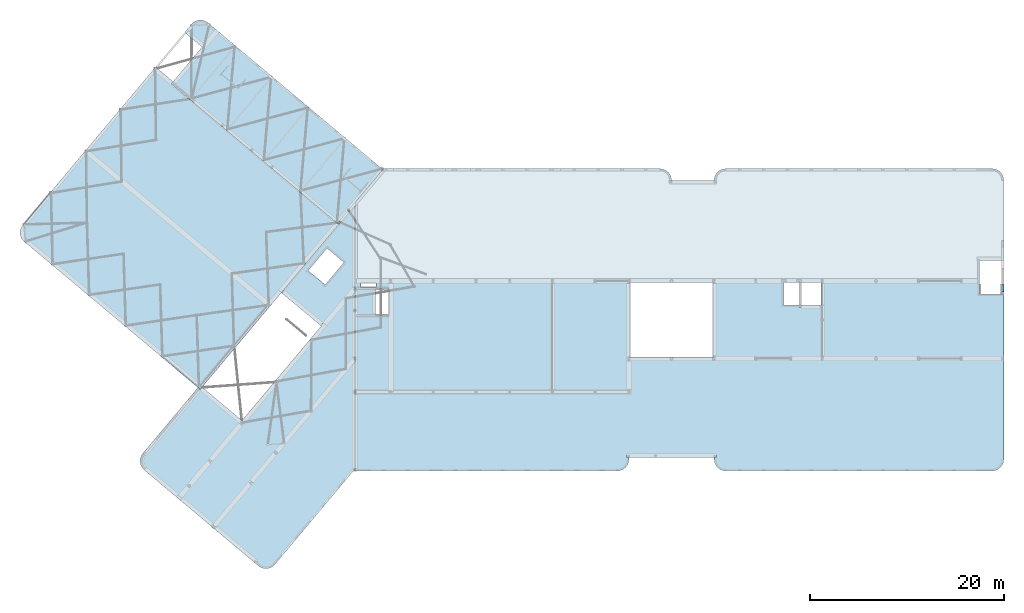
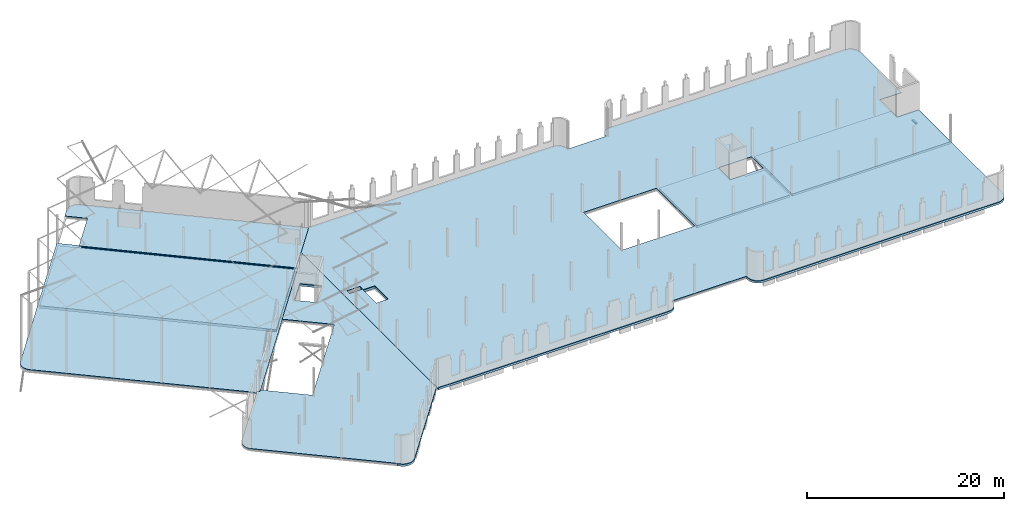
# One storey, part 21 of 25: 15 slabs, 1 beam, 7 openings.
"""IFC2X3 building model written with IfcOpenShell, lengths in millimetres."""

import ifcopenshell
import ifcopenshell.guid

model = None  # the IFC model being written
_history = None  # IfcOwnerHistory: only IFC2X3 demands one
_inside = {}  # id of a spatial element -> (the spatial element, [elements in it])
_under = {}  # id of a project, library or spatial element -> (it, [spatial elements below it])
_declared = {}  # id of a project -> (the project, [libraries it declares])
_typed = {}  # id of a type object -> (the type object, [elements of that type])
_made_of = {}  # id of a material, layer set ... -> (it, [elements and type objects made of it])


def new_model(schema):
    """Start an empty IFC model of exactly this schema.

    Asked for "IFC4X3", IfcOpenShell would pick the latest addendum, in which some entities
    have other attributes; the version numbers below select the first issue.
    IFC2X3 requires an IfcOwnerHistory on every rooted entity: one is made here for all.
    """
    global model, _history
    if schema == "IFC4X3":
        model = ifcopenshell.file(schema_version=(4, 3, 0, 0))
    else:
        model = ifcopenshell.file(schema=schema)
    _inside.clear()
    _under.clear()
    _declared.clear()
    _typed.clear()
    _made_of.clear()
    _history = None
    if model.schema == "IFC2X3":
        org = make("IfcOrganization", Name="unknown")
        user = make(
            "IfcPersonAndOrganization",
            ThePerson=make("IfcPerson", FamilyName="unknown"),
            TheOrganization=org,
        )
        app = make(
            "IfcApplication",
            ApplicationDeveloper=org,
            Version="unknown",
            ApplicationFullName="unknown",
            ApplicationIdentifier="unknown",
        )
        _history = make(
            "IfcOwnerHistory",
            OwningUser=user,
            OwningApplication=app,
            ChangeAction="ADDED",
            CreationDate=0,
        )
    return model


def make(cls, **values):
    """One entity of the class cls with the attributes given. An attribute that is None is left unset."""
    return model.create_entity(
        cls, **{name: value for name, value in values.items() if value is not None}
    )


def entity(cls, *values):
    """Any entity or typed value of the class cls, its attributes in the order of the schema. None: left unset."""
    e = model.create_entity(cls)
    for i, value in enumerate(values):
        if value is not None:
            e[i] = value
    return e


def rooted(cls, **values):
    """An entity with a GlobalId (a new one), such as an element, a storey or a relation."""
    return make(cls, GlobalId=ifcopenshell.guid.new(), OwnerHistory=_history, **values)


def si_unit(unit_type, name, prefix=None):
    """IfcSIUnit, for example si_unit("LENGTHUNIT", "METRE", prefix="MILLI")."""
    return make("IfcSIUnit", UnitType=unit_type, Prefix=prefix, Name=name)


def converted_unit(unit_type, name, factor, base, dimensions=None, offset=None):
    """IfcConversionBasedUnit, such as the inch: factor (a typed value) times the base unit."""
    return make(
        "IfcConversionBasedUnit"
        if offset is None
        else "IfcConversionBasedUnitWithOffset",
        ConversionOffset=offset,
        Dimensions=None
        if dimensions is None
        else entity("IfcDimensionalExponents", *dimensions),
        UnitType=unit_type,
        Name=name,
        ConversionFactor=make(
            "IfcMeasureWithUnit", ValueComponent=factor, UnitComponent=base
        ),
    )


def derived_unit(unit_type, elements):
    """IfcDerivedUnit: a product of units, each with its exponent."""
    return make(
        "IfcDerivedUnit",
        Elements=[
            make("IfcDerivedUnitElement", Unit=unit, Exponent=power)
            for unit, power in elements
        ],
        UnitType=unit_type,
    )


def assignment(units):
    """IfcUnitAssignment: the units of a project."""
    return None if units is None else make("IfcUnitAssignment", Units=units)


def point(xyz):
    """IfcCartesianPoint."""
    return None if xyz is None else make("IfcCartesianPoint", Coordinates=xyz)


def direction(xyz):
    """IfcDirection."""
    return None if xyz is None else make("IfcDirection", DirectionRatios=xyz)


def frame(location, z_axis=None, x_axis=None):
    """IfcAxis2Placement3D, a coordinate frame: its origin and axes. An axis left out is left unset."""
    return make(
        "IfcAxis2Placement3D",
        Location=point(location),
        Axis=direction(z_axis),
        RefDirection=direction(x_axis),
    )


def frame_2d(location, x_axis=None):
    """IfcAxis2Placement2D, a coordinate frame in the plane: its origin and x axis."""
    return make(
        "IfcAxis2Placement2D", Location=point(location), RefDirection=direction(x_axis)
    )


def origin():
    """The frame at (0, 0, 0) with its axes left unset."""
    return frame((0.0, 0.0, 0.0))


def origin_2d_with_axis():
    """The frame at (0, 0) in the plane with the x axis (1, 0) written out."""
    return frame_2d((0.0, 0.0), x_axis=(1.0, 0.0))


def place(relative_to, where):
    """IfcLocalPlacement: puts the frame where relative to a parent placement (None: the world)."""
    return make(
        "IfcLocalPlacement", PlacementRelTo=relative_to, RelativePlacement=where
    )


def context(
    kind, dimensions, precision=None, world=None, true_north=None, identifier=None
):
    """IfcGeometricRepresentationContext, for example the 3D "Model" context."""
    return make(
        "IfcGeometricRepresentationContext",
        ContextIdentifier=identifier,
        ContextType=kind,
        CoordinateSpaceDimension=dimensions,
        Precision=precision,
        WorldCoordinateSystem=world,
        TrueNorth=true_north,
    )


def subcontext(parent, identifier, kind, view, scale=None):
    """IfcGeometricRepresentationSubContext, for example "Body" below "Model"."""
    return make(
        "IfcGeometricRepresentationSubContext",
        ContextIdentifier=identifier,
        ContextType=kind,
        ParentContext=parent,
        TargetScale=scale,
        TargetView=view,
    )


def project(units=None, contexts=None):
    """IfcProject with its units and contexts."""
    return rooted(
        "IfcProject",
        Name="project",
        RepresentationContexts=contexts,
        UnitsInContext=assignment(units),
    )


def spatial(cls, under=None, at=None, **own):
    """A site, building, storey or space (cls), placed at a placement, below another one or the project."""
    s = rooted(cls, ObjectPlacement=at, **own)
    if under is not None:
        _under.setdefault(under.id(), (under, []))[1].append(s)
    return s


def polyline(points):
    """IfcPolyline through the points."""
    return make("IfcPolyline", Points=[point(p) for p in points])


def circle_curve(where, radius):
    """IfcCircle in the frame where."""
    return make("IfcCircle", Position=where, Radius=radius)


def parameter(value):
    """IfcParameterValue: where a trimmed curve begins or ends, as a parameter of its basis curve."""
    return model.create_entity("IfcParameterValue", value)


def trimmed(basis, trim1, trim2, sense, master):
    """IfcTrimmedCurve: the piece of a basis curve between two trims."""
    return make(
        "IfcTrimmedCurve",
        BasisCurve=basis,
        Trim1=trim1,
        Trim2=trim2,
        SenseAgreement=sense,
        MasterRepresentation=master,
    )


def segment(curve, same_sense, transition):
    """IfcCompositeCurveSegment."""
    return make(
        "IfcCompositeCurveSegment",
        Transition=transition,
        SameSense=same_sense,
        ParentCurve=curve,
    )


def composite_curve(segments, self_intersect=None):
    """IfcCompositeCurve: segments joined end to end."""
    return make("IfcCompositeCurve", Segments=segments, SelfIntersect=self_intersect)


def profile(cls, at=None, kind="AREA", **sizes):
    """A parametric profile (cls). Its sizes go by their IFC names, for example OverallWidth=200.0."""
    return make(cls, ProfileType=kind, Position=at, **sizes)


def rectangle(**sizes):
    """IfcRectangleProfileDef."""
    return profile("IfcRectangleProfileDef", **sizes)


def outline(outer, holes=None, kind="AREA"):
    """IfcArbitraryClosedProfileDef: a profile drawn as a closed curve; with holes, ...WithVoids."""
    if holes is None:
        return make("IfcArbitraryClosedProfileDef", ProfileType=kind, OuterCurve=outer)
    return make(
        "IfcArbitraryProfileDefWithVoids",
        ProfileType=kind,
        OuterCurve=outer,
        InnerCurves=holes,
    )


def extrude(swept, where, along, depth):
    """IfcExtrudedAreaSolid: the profile swept, set in the frame where, extruded along a direction by depth."""
    return make(
        "IfcExtrudedAreaSolid",
        SweptArea=swept,
        Position=where,
        ExtrudedDirection=direction(along),
        Depth=depth,
    )


def boolean(op, a, b):
    """IfcBooleanResult of two solids."""
    return make("IfcBooleanResult", Operator=op, FirstOperand=a, SecondOperand=b)


def shape(context_of_items, identifier, shape_type, items):
    """IfcShapeRepresentation: the items that make up one representation, for example the "Body"."""
    return make(
        "IfcShapeRepresentation",
        ContextOfItems=context_of_items,
        RepresentationIdentifier=identifier,
        RepresentationType=shape_type,
        Items=items,
    )


def material(Name=None, Category=None):
    """IfcMaterial."""
    return make("IfcMaterial", Name=Name, Category=Category)


def layer(
    of_material, thickness, ventilated=None, Name=None, Category=None, Priority=None
):
    """IfcMaterialLayer: one layer of a wall or slab, of a material (None: an air gap)."""
    return make(
        "IfcMaterialLayer",
        Material=of_material,
        LayerThickness=thickness,
        IsVentilated=ventilated,
        Name=Name,
        Category=Category,
        Priority=Priority,
    )


def layer_set(layers, Name=None):
    """IfcMaterialLayerSet."""
    return make("IfcMaterialLayerSet", MaterialLayers=layers, LayerSetName=Name)


def layer_usage(for_layer_set, set_direction, sense, offset, extent=None):
    """IfcMaterialLayerSetUsage: how a layer set lies in its element."""
    return make(
        "IfcMaterialLayerSetUsage",
        ForLayerSet=for_layer_set,
        LayerSetDirection=set_direction,
        DirectionSense=sense,
        OffsetFromReferenceLine=offset,
        ReferenceExtent=extent,
    )


def made_of(thing, what):
    """Note that an element or type object is made of a material, layer set ...; save() writes the relation."""
    if what is not None:
        _made_of.setdefault(what.id(), (what, []))[1].append(thing)
    return thing


def type_object(cls, material=None, **own):
    """A type object (cls), such as IfcWallType, which elements share."""
    return made_of(rooted(cls, **own), material)


def element(
    cls,
    number,
    at=None,
    inside=None,
    cuts=None,
    type_object=None,
    material=None,
    context=None,
    identifier="Body",
    shape_type=None,
    held_by="IfcProductDefinitionShape",
    body=None,
    shapes=None,
    **own,
):
    """One element of the class cls, such as IfcWall. Its Tag is "e" and its number.

    at: its placement. inside: the storey or other place that contains it. cuts: it is an
    opening in that element (IfcRelVoidsElement). A single representation is given by context,
    identifier, shape_type and body (its items); several are given by shapes. held_by: the class
    of the entity that holds the representations. save() writes the other relations.
    """
    e = rooted(cls, Tag="e%d" % number, ObjectPlacement=at, **own)
    if body is not None:
        shapes = [shape(context, identifier, shape_type, body)]
    if shapes is not None:
        e.Representation = make(held_by, Representations=shapes)
    if inside is not None:
        _inside.setdefault(inside.id(), (inside, []))[1].append(e)
    if cuts is not None:
        rooted(
            "IfcRelVoidsElement", RelatingBuildingElement=cuts, RelatedOpeningElement=e
        )
    if type_object is not None:
        _typed.setdefault(type_object.id(), (type_object, []))[1].append(e)
    return made_of(e, material)


def aggregate(whole, parts):
    """IfcRelAggregates: a whole, such as a stair, and the parts it consists of."""
    return rooted("IfcRelAggregates", RelatingObject=whole, RelatedObjects=parts)


def save(model, path):
    """Write the relations noted so far, then the file.

    IfcRelAggregates (storeys below a building ...), IfcRelContainedInSpatialStructure (elements
    in a storey), IfcRelDefinesByType, IfcRelAssociatesMaterial and IfcRelDeclares: one each for
    every whole, place, type object, material and project.
    """
    for whole, parts in _under.values():
        aggregate(whole, parts)
    for where, things in _inside.values():
        rooted(
            "IfcRelContainedInSpatialStructure",
            RelatedElements=things,
            RelatingStructure=where,
        )
    for kind, things in _typed.values():
        rooted("IfcRelDefinesByType", RelatedObjects=things, RelatingType=kind)
    for what, things in _made_of.values():
        rooted("IfcRelAssociatesMaterial", RelatedObjects=things, RelatingMaterial=what)
    for by, libraries in _declared.values():
        rooted("IfcRelDeclares", RelatingContext=by, RelatedDefinitions=libraries)
    model.write(path)


model = new_model("IFC2X3")

# Units and contexts
model_context = context("Model", 3, precision=0.01, world=origin(), true_north=direction((6.123031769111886e-17, 1.0)))
body_context = subcontext(model_context, "Body", "Model", "MODEL_VIEW")
ifc_project = project(units=[si_unit("LENGTHUNIT", "METRE", prefix="MILLI"), si_unit("AREAUNIT", "SQUARE_METRE"), si_unit("VOLUMEUNIT", "CUBIC_METRE"), derived_unit("MASSDENSITYUNIT", [(si_unit("MASSUNIT", "GRAM", prefix="KILO"), 1), (si_unit("LENGTHUNIT", "METRE"), -3)]), si_unit("MASSUNIT", "GRAM", prefix="KILO"), converted_unit("PLANEANGLEUNIT", "DEGREE", entity("IfcPlaneAngleMeasure", 0.017453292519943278), si_unit("PLANEANGLEUNIT", "RADIAN"), dimensions=[0, 0, 0, 0, 0, 0, 0])], contexts=[model_context])

# Site, building, storey
site_placement = place(None, origin())
site = spatial("IfcSite", under=ifc_project, at=site_placement, Name="Default", CompositionType="ELEMENT")
building_placement = place(site_placement, origin())
building = spatial("IfcBuilding", under=site, at=building_placement, Name="AT constructie", CompositionType="ELEMENT")
storey_placement = place(building_placement, frame((0.0, 0.0, 3864.0)))
storey = spatial("IfcBuildingStorey", under=building, at=storey_placement, Name="01 eerste verdieping", CompositionType="ELEMENT", Elevation=3864.0)

# Beam
ifc_material_1 = material(Name="f2_beton_prefab_gen")
beam_type = type_object("IfcBeamType", Name="balk vierkant_gen_214x200", PredefinedType="NOTDEFINED")
beam_placement = place(storey_placement, frame((107932.87463111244, 30152.501419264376, 0.0), z_axis=(0.0, 0.0, 1.0), x_axis=(0.0, 1.0, 0.0)))
element("IfcBeam", 1, at=beam_placement, inside=storey, type_object=beam_type, material=ifc_material_1, Name="NLRS_28_SF_LIB_balk vierkant prefab_gen_AT:balk vierkant_gen_214x200", ObjectType="NLRS_28_SF_LIB_balk vierkant prefab_gen_AT:balk vierkant_gen_214x200", context=body_context, shape_type="SweptSolid", body=[
    extrude(rectangle(XDim=200.00000000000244, YDim=214.00000000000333, at=frame_2d((0.0, -8.668621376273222e-12), x_axis=(1.0, 0.0))), frame((10.0, -107.0, -1940.0), z_axis=(1.0, 0.0, 0.0), x_axis=(0.0, 0.0, -1.0)), (0.0, 0.0, 1.0), 780.0000000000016),
])

# Slabs
ifc_layer_1 = layer(ifc_material_1, 320.0)
ifc_layer_set_1 = layer_set([ifc_layer_1], Name="Floor:NLRS_23_FL_kanaalplaatvloer 320_gen_AT")
ifc_layer_usage_1 = layer_usage(ifc_layer_set_1, "AXIS3", "POSITIVE", 0.0)
slab_type_1 = type_object("IfcSlabType", Name="NLRS_23_FL_kanaalplaatvloer 320_gen_AT", PredefinedType="FLOOR", material=ifc_layer_set_1)
slab_1_placement = place(storey_placement, origin())
element("IfcSlab", 2, at=slab_1_placement, inside=storey, type_object=slab_type_1, material=ifc_layer_usage_1, Name="Floor:NLRS_23_FL_kanaalplaatvloer 320_gen_AT", ObjectType="Floor:NLRS_23_FL_kanaalplaatvloer 320_gen_AT", PredefinedType="FLOOR", context=body_context, shape_type="SweptSolid", body=[
    extrude(rectangle(XDim=10825.000000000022, YDim=24444.999999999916, at=frame_2d((-4.547473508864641e-13, -7.275957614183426e-12), x_axis=(1.0, 0.0))), frame((26409.377516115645, 41024.39588608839, -271.0), z_axis=(0.0, 0.0, -1.0), x_axis=(-0.6427876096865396, -0.7660444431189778, 0.0)), (0.0, 0.0, 1.0), 319.99999999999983),
])
ifc_layer_usage_2 = layer_usage(ifc_layer_set_1, "AXIS3", "POSITIVE", 0.0)
slab_2_placement = place(storey_placement, origin())
element("IfcSlab", 3, at=slab_2_placement, inside=storey, type_object=slab_type_1, material=ifc_layer_usage_2, Name="Floor:NLRS_23_FL_kanaalplaatvloer 320_gen_AT", ObjectType="Floor:NLRS_23_FL_kanaalplaatvloer 320_gen_AT", PredefinedType="FLOOR", context=body_context, shape_type="SweptSolid", body=[
    extrude(outline(composite_curve([segment(polyline([(-7255.714285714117, -17280.714285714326), (3544.2857142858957, -17280.714285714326)]), True, "CONTINUOUS"), segment(polyline([(3544.2857142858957, -17280.714285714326), (3544.2857142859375, 6144.285714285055)]), True, "CONTINUOUS"), segment(trimmed(circle_curve(frame_2d((2644.2857142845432, 6144.285714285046), x_axis=(1.0, 0.0)), 900.0000000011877), [parameter(0.0)], [parameter(89.9999999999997)], True, "PARAMETER"), True, "CONTINUOUS"), segment(polyline([(2644.285714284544, 7044.285714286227), (2389.2857142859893, 7044.28571428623)]), True, "CONTINUOUS"), segment(polyline([(2389.2857142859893, 7044.28571428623), (2389.28571428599, 7164.285714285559)]), True, "CONTINUOUS"), segment(polyline([(2389.2857142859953, 7164.285714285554), (-7255.714285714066, 7164.285714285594)]), True, "CONTINUOUS"), segment(polyline([(-7255.714285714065, 7164.2857142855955), (-7255.714285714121, -17280.71428571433)]), True, "CONTINUOUS")], self_intersect=False)), frame((14198.75310782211, 34341.524865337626, -271.0), z_axis=(0.0, 0.0, -1.0), x_axis=(-0.6427876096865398, -0.7660444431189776, 0.0)), (0.0, 0.0, 1.0), 319.99999999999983),
])
ifc_layer_2 = layer(ifc_material_1, 260.0)
ifc_layer_set_2 = layer_set([ifc_layer_2], Name="Floor:NLRS_23_FL_kanaalplaatvloer 260_gen_AT")
ifc_layer_usage_3 = layer_usage(ifc_layer_set_2, "AXIS3", "POSITIVE", 0.0)
slab_type_2 = type_object("IfcSlabType", Name="NLRS_23_FL_kanaalplaatvloer 260_gen_AT", PredefinedType="FLOOR", material=ifc_layer_set_2)
slab_3_placement = place(storey_placement, origin())
element("IfcSlab", 4, at=slab_3_placement, inside=storey, type_object=slab_type_2, material=ifc_layer_usage_3, Name="Floor:NLRS_23_FL_kanaalplaatvloer 260_gen_AT", ObjectType="Floor:NLRS_23_FL_kanaalplaatvloer 260_gen_AT", PredefinedType="FLOOR", context=body_context, shape_type="SweptSolid", body=[
    extrude(outline(composite_curve([segment(polyline([(-5804.396836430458, -2602.6864079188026), (17620.603163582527, -2602.6864079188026)]), True, "CONTINUOUS"), segment(polyline([(17620.603163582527, -2602.6864079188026), (17620.603163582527, 4672.313592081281)]), True, "CONTINUOUS"), segment(polyline([(17620.603163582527, 4672.313592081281), (-4394.396836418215, 4672.313592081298)]), True, "CONTINUOUS"), segment(polyline([(-4394.396836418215, 4672.313592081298), (-4394.3968364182, -548.6864126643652)]), True, "CONTINUOUS"), segment(polyline([(-4394.3968364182, -548.6864126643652), (-6824.396836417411, -548.6864126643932)]), True, "CONTINUOUS"), segment(polyline([(-6824.396836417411, -548.6864126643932), (-6824.396836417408, -1520.9407714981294)]), True, "CONTINUOUS"), segment(polyline([(-6824.396836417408, -1520.9407714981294), (-6999.2221450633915, -1520.940771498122)]), True, "CONTINUOUS"), segment(trimmed(circle_curve(frame_2d((-5805.063047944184, -1402.6865928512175), x_axis=(-0.9951325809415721, -0.09854514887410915)), 1200.0000000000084), [parameter(0.0)], [parameter(84.37640942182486)], True, "PARAMETER"), True, "CONTINUOUS")], self_intersect=False)), frame((28756.5838072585, 52219.64512755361, -110.0), z_axis=(0.0, 0.0, -1.0), x_axis=(0.7660444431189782, -0.642787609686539, 0.0)), (0.0, 0.0, 1.0), 259.9999999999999),
])
ifc_layer_usage_4 = layer_usage(ifc_layer_set_2, "AXIS3", "POSITIVE", 0.0)
slab_4_placement = place(storey_placement, origin())
element("IfcSlab", 5, at=slab_4_placement, inside=storey, type_object=slab_type_2, material=ifc_layer_usage_4, Name="Floor:NLRS_23_FL_kanaalplaatvloer 260_gen_AT", ObjectType="Floor:NLRS_23_FL_kanaalplaatvloer 260_gen_AT", PredefinedType="FLOOR", context=body_context, shape_type="SweptSolid", body=[
    extrude(outline(composite_curve([segment(polyline([(-3029.411764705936, -34200.5882343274), (4990.588235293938, -34200.5882343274)]), True, "CONTINUOUS"), segment(polyline([(4990.588235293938, -34200.5882343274), (4990.588235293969, -5920.588234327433)]), True, "CONTINUOUS"), segment(polyline([(4990.588235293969, -5920.588234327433), (8440.588235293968, -5920.588234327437)]), True, "CONTINUOUS"), segment(polyline([(8440.588235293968, -5920.588234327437), (8440.588235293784, 32649.411765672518)]), True, "CONTINUOUS"), segment(polyline([(8440.588235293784, 32649.411765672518), (-1829.411764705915, 32649.411765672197)]), True, "CONTINUOUS"), segment(trimmed(circle_curve(frame_2d((-1829.4117647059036, 31449.41176567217), x_axis=(0.0, 1.0)), 1200.0000000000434), [parameter(0.0)], [parameter(90.00000000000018)], True, "PARAMETER"), True, "CONTINUOUS"), segment(polyline([(-3029.4117647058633, 31449.41176567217), (-3029.411764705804, 3949.4117656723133)]), True, "CONTINUOUS"), segment(trimmed(circle_curve(frame_2d((-1829.4117647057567, 3949.4117656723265), x_axis=(-1.0, 0.0)), 1200.0000000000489), [parameter(0.0)], [parameter(89.99999999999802)], True, "PARAMETER"), True, "CONTINUOUS"), segment(polyline([(-1829.4117647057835, 2749.411765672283), (-1629.4117647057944, 2749.411765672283)]), True, "CONTINUOUS"), segment(polyline([(-1629.4117647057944, 2749.411765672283), (-1629.4117647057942, 2975.9117674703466)]), True, "CONTINUOUS"), segment(polyline([(-1629.4117647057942, 2975.9117674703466), (-1369.4117647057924, 2975.911767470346)]), True, "CONTINUOUS"), segment(polyline([(-1369.4117647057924, 2975.911767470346), (-1369.4117647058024, -6277.088244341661)]), True, "CONTINUOUS"), segment(polyline([(-1369.4117647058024, -6277.088244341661), (-1629.4117647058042, -6277.088244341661)]), True, "CONTINUOUS"), segment(polyline([(-1629.4117647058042, -6277.088244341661), (-1629.411764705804, -6050.5882343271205)]), True, "CONTINUOUS"), segment(polyline([(-1629.411764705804, -6050.5882343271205), (-1829.411764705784, -6050.5882343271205)]), True, "CONTINUOUS"), segment(trimmed(circle_curve(frame_2d((-1829.4117647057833, -7250.58823432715), x_axis=(0.0, 1.0)), 1200.0000000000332), [parameter(0.0)], [parameter(89.99999999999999)], True, "PARAMETER"), True, "CONTINUOUS"), segment(polyline([(-3029.411764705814, -7250.588234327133), (-3029.411764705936, -34200.5882343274)]), True, "CONTINUOUS")], self_intersect=False)), frame((75497.46286543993, 14700.45527323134, -110.0), z_axis=(0.0, 0.0, -1.0), x_axis=(0.0, 1.0, 0.0)), (0.0, 0.0, 1.0), 259.9999999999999),
])
ifc_layer_usage_5 = layer_usage(ifc_layer_set_2, "AXIS3", "POSITIVE", 0.0)
slab_5_placement = place(storey_placement, origin())
element("IfcSlab", 6, at=slab_5_placement, inside=storey, type_object=slab_type_2, material=ifc_layer_usage_5, Name="Floor:NLRS_23_FL_kanaalplaatvloer 260_gen_AT", ObjectType="Floor:NLRS_23_FL_kanaalplaatvloer 260_gen_AT", PredefinedType="FLOOR", context=body_context, shape_type="SweptSolid", body=[
    extrude(outline(polyline([(-4753.333333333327, -11568.333334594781), (2986.666666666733, -11568.333334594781), (2986.666666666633, 4527.166669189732), (1766.6666666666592, 4527.166669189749), (1766.6666666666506, 7041.1666654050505), (-4753.333333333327, 7041.1666654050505), (-4753.333333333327, -11568.333334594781)])), frame((101105.7079657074, 28154.376841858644, -110.0), z_axis=(0.0, 0.0, -1.0), x_axis=(0.0, 1.0, 0.0)), (0.0, 0.0, 1.0), 259.9999999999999),
])
ifc_layer_usage_6 = layer_usage(ifc_layer_set_2, "AXIS3", "POSITIVE", 0.0)
slab_6_placement = place(storey_placement, origin())
element("IfcSlab", 7, at=slab_6_placement, inside=storey, type_object=slab_type_2, material=ifc_layer_usage_6, Name="Floor:NLRS_23_FL_kanaalplaatvloer 260_gen_AT", ObjectType="Floor:NLRS_23_FL_kanaalplaatvloer 260_gen_AT", PredefinedType="FLOOR", context=body_context, shape_type="SweptSolid", body=[
    extrude(outline(polyline([(-4562.7499999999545, -6652.1250000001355), (3177.2500000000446, -6652.1250000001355), (3177.250000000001, 401.8750000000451), (821.2499999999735, 401.8750000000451), (821.2499999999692, 2001.8750000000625), (564.2499999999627, 2001.8750000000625), (564.2499999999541, 4248.375000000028), (-4562.7499999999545, 4248.375000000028), (-4562.7499999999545, -6652.1250000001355)])), frame((85028.99963111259, 27963.793508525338, -110.0), z_axis=(0.0, 0.0, -1.0), x_axis=(0.0, 1.0, 0.0)), (0.0, 0.0, 1.0), 259.9999999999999),
])

# Slab, opening
ifc_layer_usage_7 = layer_usage(ifc_layer_set_2, "AXIS3", "POSITIVE", 0.0)
slab_7_placement = place(storey_placement, origin())
slab_7 = element("IfcSlab", 8, at=slab_7_placement, inside=storey, type_object=slab_type_2, material=ifc_layer_usage_7, Name="Floor:NLRS_23_FL_kanaalplaatvloer 260_gen_AT", ObjectType="Floor:NLRS_23_FL_kanaalplaatvloer 260_gen_AT", PredefinedType="FLOOR", context=body_context, shape_type="SweptSolid", body=[
    boolean("DIFFERENCE", extrude(outline(polyline([(-8256.249999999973, -7641.249999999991), (2933.750000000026, -7641.249999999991), (2933.750000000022, -7141.249999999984), (2388.75000000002, -7141.249999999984), (2388.75000000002, -5596.249999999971), (2933.750000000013, -5596.249999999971), (2933.7499999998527, 20378.749999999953), (-8256.249999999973, 20378.749999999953), (-8256.249999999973, -7641.249999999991)])), frame((48938.12463111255, 28207.29350852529, -110.0), z_axis=(0.0, 0.0, -1.0), x_axis=(0.0, 1.0, 0.0)), (0.0, 0.0, 1.0), 259.9999999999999), extrude(rectangle(XDim=2699.9999999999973, YDim=1425.0000000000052, at=frame_2d((-2.1600499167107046e-12, 0.0), x_axis=(1.0, 0.0))), frame((43984.37463111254, 29121.04350852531, -370.0), z_axis=(0.0, 0.0, 1.0), x_axis=(0.0, 1.0, 0.0)), (0.0, 0.0, 1.0), 259.9999999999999)),
])
opening_1_placement = place(slab_7_placement, origin())
element("IfcOpeningElement", 9, at=opening_1_placement, cuts=slab_7, Name="Floor:NLRS_23_FL_kanaalplaatvloer 260_gen_AT", ObjectType="Opening", context=body_context, shape_type="SweptSolid", body=[
    extrude(rectangle(XDim=1425.0000000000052, YDim=2699.9999999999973, at=frame_2d((0.0, 2.1600499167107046e-12), x_axis=(1.0, 0.0))), frame((43984.37463111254, 29121.04350852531, -370.0), z_axis=(0.0, 0.0, 1.0), x_axis=(-1.0, 0.0, 0.0)), (0.0, 0.0, 1.0), 259.9999999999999),
])

# Slabs
ifc_layer_usage_8 = layer_usage(ifc_layer_set_2, "AXIS3", "POSITIVE", 0.0)
slab_8_placement = place(storey_placement, origin())
element("IfcSlab", 10, at=slab_8_placement, inside=storey, type_object=slab_type_2, material=ifc_layer_usage_8, Name="Floor:NLRS_23_FL_kanaalplaatvloer 260_gen_AT", ObjectType="Floor:NLRS_23_FL_kanaalplaatvloer 260_gen_AT", PredefinedType="FLOOR", context=body_context, shape_type="SweptSolid", body=[
    extrude(outline(composite_curve([segment(polyline([(-15923.017135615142, -7447.37865001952), (-4690.6911056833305, -7447.37865001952)]), True, "CONTINUOUS"), segment(polyline([(-4690.6911056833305, -7447.37865001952), (4990.104952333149, 675.7737517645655)]), True, "CONTINUOUS"), segment(trimmed(circle_curve(frame_2d((4188.5609887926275, 1568.817577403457), x_axis=(0.6679533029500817, -0.7442031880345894)), 1199.999999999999), [parameter(0.0)], [parameter(88.09073117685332)], True, "PARAMETER"), True, "CONTINUOUS"), segment(polyline([(5107.813960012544, 2340.1631386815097), (4853.48484052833, 2643.2604928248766)]), True, "CONTINUOUS"), segment(polyline([(4853.48484052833, 2643.2604928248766), (4638.99239645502, 2463.279962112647)]), True, "CONTINUOUS"), segment(polyline([(4638.992396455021, 2463.279962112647), (1023.312091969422, 6772.279954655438)]), True, "CONTINUOUS"), segment(polyline([(1023.312091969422, 6772.279954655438), (-15923.017135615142, -7447.37865001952)]), True, "CONTINUOUS")], self_intersect=False)), frame((33549.495981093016, 6972.795186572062, -110.0), z_axis=(0.0, 0.0, -1.0), x_axis=(0.0, -1.0, 0.0)), (0.0, 0.0, 1.0), 259.9999999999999),
])
ifc_layer_usage_9 = layer_usage(ifc_layer_set_2, "AXIS3", "POSITIVE", 0.0)
slab_9_placement = place(storey_placement, origin())
element("IfcSlab", 11, at=slab_9_placement, inside=storey, type_object=slab_type_2, material=ifc_layer_usage_9, Name="Floor:NLRS_23_FL_kanaalplaatvloer 260_gen_AT", ObjectType="Floor:NLRS_23_FL_kanaalplaatvloer 260_gen_AT", PredefinedType="FLOOR", context=body_context, shape_type="SweptSolid", body=[
    extrude(outline(polyline([(-13008.607620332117, -8050.148856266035), (-6178.980020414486, -8050.148856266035), (11004.71262363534, 6368.681303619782), (8182.875017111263, 9731.61640891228), (-13008.607620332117, -8050.148856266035)])), frame((32946.725774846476, 17121.320496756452, -110.0), z_axis=(0.0, 0.0, -1.0), x_axis=(0.0, -1.0, 0.0)), (0.0, 0.0, 1.0), 259.9999999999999),
])
ifc_layer_usage_10 = layer_usage(ifc_layer_set_2, "AXIS3", "POSITIVE", 0.0)
slab_10_placement = place(storey_placement, origin())
element("IfcSlab", 12, at=slab_10_placement, inside=storey, type_object=slab_type_2, material=ifc_layer_usage_10, Name="Floor:NLRS_23_FL_kanaalplaatvloer 260_gen_AT", ObjectType="Floor:NLRS_23_FL_kanaalplaatvloer 260_gen_AT", PredefinedType="FLOOR", context=body_context, shape_type="SweptSolid", body=[
    extrude(outline(composite_curve([segment(polyline([(-5759.962728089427, -3189.515523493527), (4069.9912226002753, -3189.5155234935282)]), True, "CONTINUOUS"), segment(polyline([(4069.9912226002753, -3189.5155234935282), (4069.9912226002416, 1681.5620939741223)]), True, "CONTINUOUS"), segment(trimmed(circle_curve(frame_2d((3082.8883820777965, 1346.9492828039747), x_axis=(0.9470653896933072, 0.3210407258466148)), 1042.275276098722), [parameter(0.0)], [parameter(55.25138375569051)], True, "PARAMETER"), True, "CONTINUOUS"), segment(polyline([(3370.5760197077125, 2348.7344765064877), (-5750.5957368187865, 2348.734476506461)]), True, "CONTINUOUS"), segment(polyline([(-5750.5957368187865, 2348.734476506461), (-5759.962728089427, -3189.515523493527)]), True, "CONTINUOUS")], self_intersect=False)), frame((23188.76709712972, 14273.5454771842, -110.0), z_axis=(0.0, 0.0, -1.0), x_axis=(-0.642787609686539, -0.7660444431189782, 0.0)), (0.0, 0.0, 1.0), 259.9999999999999),
])

# Slab, opening
ifc_layer_usage_11 = layer_usage(ifc_layer_set_2, "AXIS3", "POSITIVE", 0.0)
slab_11_placement = place(storey_placement, origin())
slab_11 = element("IfcSlab", 13, at=slab_11_placement, inside=storey, type_object=slab_type_2, material=ifc_layer_usage_11, Name="Floor:NLRS_23_FL_kanaalplaatvloer 260_gen_AT", ObjectType="Floor:NLRS_23_FL_kanaalplaatvloer 260_gen_AT", PredefinedType="FLOOR", context=body_context, shape_type="SweptSolid", body=[
    boolean("DIFFERENCE", extrude(outline(polyline([(-7284.92189926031, -2591.4391158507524), (1108.2081466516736, -2591.4391158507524), (4822.2764534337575, 525.0342305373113), (1354.4372991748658, 4657.84400116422), (-7284.92189926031, -2591.4391158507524)])), frame((38405.4355152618, 31642.62445872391, -110.0), z_axis=(0.0, 0.0, -1.0), x_axis=(0.0, -1.0, 0.0)), (0.0, 0.0, 1.0), 259.9999999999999), extrude(rectangle(XDim=3010.000000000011, YDim=2259.9999999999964, at=frame_2d((1.3642420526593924e-12, -1.5916157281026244e-12), x_axis=(1.0, 0.0))), frame((38179.58940716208, 32771.28940645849, -370.0), z_axis=(0.0, 0.0, 1.0), x_axis=(0.642787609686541, 0.7660444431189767, 0.0)), (0.0, 0.0, 1.0), 259.9999999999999)),
])
opening_2_placement = place(slab_11_placement, origin())
element("IfcOpeningElement", 14, at=opening_2_placement, cuts=slab_11, Name="Floor:NLRS_23_FL_kanaalplaatvloer 260_gen_AT", ObjectType="Opening", context=body_context, shape_type="SweptSolid", body=[
    extrude(rectangle(XDim=3010.000000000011, YDim=2259.999999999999, at=frame_2d((2.2737367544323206e-13, -2.9558577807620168e-12), x_axis=(1.0, 0.0))), frame((38179.58940716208, 32771.28940645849, -110.0), z_axis=(0.0, 0.0, -1.0), x_axis=(-0.642787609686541, -0.7660444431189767, 0.0)), (0.0, 0.0, 1.0), 259.99999999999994),
])

# Slab, openings
ifc_material_2 = material(Name="f2_beton ihwg_gen")
ifc_layer_3 = layer(ifc_material_2, 60.0)
ifc_layer_set_3 = layer_set([ifc_layer_3], Name="Floor:NLRS_23_FL_gewapende druklaag  beton_60_gen_AT")
ifc_layer_usage_12 = layer_usage(ifc_layer_set_3, "AXIS3", "POSITIVE", 0.0)
slab_type_3 = type_object("IfcSlabType", Name="NLRS_23_FL_gewapende druklaag  beton_60_gen_AT", PredefinedType="FLOOR", material=ifc_layer_set_3)
slab_12_placement = place(storey_placement, origin())
slab_12 = element("IfcSlab", 15, at=slab_12_placement, inside=storey, type_object=slab_type_3, material=ifc_layer_usage_12, Name="Floor:NLRS_23_FL_gewapende druklaag  beton_60_gen_AT", ObjectType="Floor:NLRS_23_FL_gewapende druklaag  beton_60_gen_AT", PredefinedType="FLOOR", context=body_context, shape_type="SweptSolid", body=[
    boolean("DIFFERENCE", boolean("DIFFERENCE", boolean("DIFFERENCE", boolean("DIFFERENCE", extrude(outline(composite_curve([segment(polyline([(-15655.648783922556, -41301.67504374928), (12012.975678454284, -41301.67504374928)]), True, "CONTINUOUS"), segment(polyline([(12012.975678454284, -41301.67504374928), (15544.35121607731, -38338.49913258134)]), True, "CONTINUOUS"), segment(polyline([(15544.35121607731, -38338.49913258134), (15544.351216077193, -9801.675043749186)]), True, "CONTINUOUS"), segment(trimmed(circle_curve(frame_2d((14344.351216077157, -9801.675043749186), x_axis=(1.0, 0.0)), 1200.0000000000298), [parameter(0.0)], [parameter(89.99999999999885)], True, "PARAMETER"), True, "CONTINUOUS"), segment(polyline([(14344.351216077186, -8601.675043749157), (14344.351216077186, -4201.675043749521)]), True, "CONTINUOUS"), segment(trimmed(circle_curve(frame_2d((14344.35121607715, -3001.675043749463), x_axis=(0.0, -1.0)), 1200.0000000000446), [parameter(0.0)], [parameter(89.99999999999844)], True, "PARAMETER"), True, "CONTINUOUS"), segment(polyline([(15544.351216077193, -3001.675043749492), (15544.351216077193, 24498.324956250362)]), True, "CONTINUOUS"), segment(trimmed(circle_curve(frame_2d((14344.351216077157, 24498.324956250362), x_axis=(1.0, 0.0)), 1200.0000000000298), [parameter(0.0)], [parameter(89.99999999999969)], True, "PARAMETER"), True, "CONTINUOUS"), segment(polyline([(14344.351216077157, 25698.324956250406), (6044.351216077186, 25698.324956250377)]), True, "CONTINUOUS"), segment(polyline([(6044.351216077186, 25698.324956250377), (6044.351216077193, 23184.3249600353)]), True, "CONTINUOUS"), segment(polyline([(6044.351216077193, 23184.3249600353), (2594.351216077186, 23184.3249600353)]), True, "CONTINUOUS"), segment(polyline([(2594.351216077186, 23184.3249600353), (2594.351216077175, 25698.324956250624)]), True, "CONTINUOUS"), segment(polyline([(2594.351216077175, 25698.324956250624), (-14455.648783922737, 25698.32495625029)]), True, "CONTINUOUS"), segment(trimmed(circle_curve(frame_2d((-14455.648783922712, 24498.32495625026), x_axis=(0.0, 1.0)), 1200.0000000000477), [parameter(0.0)], [parameter(89.99999999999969)], True, "PARAMETER"), True, "CONTINUOUS"), segment(polyline([(-15655.648783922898, 24498.32495625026), (-15655.648783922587, -3001.675043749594)]), True, "CONTINUOUS"), segment(trimmed(circle_curve(frame_2d((-14455.64878392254, -3001.675043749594), x_axis=(-1.0, 0.0)), 1200.0000000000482), [parameter(0.0)], [parameter(89.99999999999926)], True, "PARAMETER"), True, "CONTINUOUS"), segment(polyline([(-14455.648783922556, -4201.675043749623), (-14255.648783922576, -4201.675043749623)]), True, "CONTINUOUS"), segment(polyline([(-14255.648783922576, -4201.675043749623), (-14255.648783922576, -13001.675043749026)]), True, "CONTINUOUS"), segment(polyline([(-14255.648783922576, -13001.675043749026), (-14455.648783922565, -13001.675043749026)]), True, "CONTINUOUS"), segment(trimmed(circle_curve(frame_2d((-14455.648783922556, -14201.675043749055), x_axis=(0.0, 1.0)), 1200.0000000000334), [parameter(0.0)], [parameter(90.00000000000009)], True, "PARAMETER"), True, "CONTINUOUS"), segment(polyline([(-15655.648783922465, -14201.675043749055), (-15655.648783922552, -41301.67504374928)]), True, "CONTINUOUS")], self_intersect=False)), frame((82448.54967486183, 27326.69229244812, -50.0), z_axis=(0.0, 0.0, -1.0), x_axis=(0.0, 1.0, 0.0)), (0.0, 0.0, 1.0), 59.99999999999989), extrude(rectangle(XDim=7740.000000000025, YDim=8539.999999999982, at=origin_2d_with_axis()), frame((73846.8746311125, 27271.043508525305, -110.0), z_axis=(0.0, 0.0, 1.0), x_axis=(0.0, 1.0, 0.0)), (0.0, 0.0, 1.0), 59.99999999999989)), extrude(rectangle(XDim=545.000000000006, YDim=1545.0000000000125, at=origin_2d_with_axis()), frame((42569.37463111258, 30868.543508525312, -110.0), z_axis=(0.0, 0.0, 1.0), x_axis=(0.0, 1.0, 0.0)), (0.0, 0.0, 1.0), 59.99999999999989)), extrude(rectangle(XDim=2699.9999999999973, YDim=1425.0000000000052, at=frame_2d((-2.1600499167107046e-12, 0.0), x_axis=(1.0, 0.0))), frame((43984.37463111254, 29121.04350852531, -110.0), z_axis=(0.0, 0.0, 1.0), x_axis=(0.0, 1.0, 0.0)), (0.0, 0.0, 1.0), 59.99999999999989)), extrude(rectangle(XDim=2356.0000000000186, YDim=3846.5000000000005, at=origin_2d_with_axis()), frame((87354.12463111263, 29963.04350852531, -110.0), z_axis=(0.0, 0.0, 1.0), x_axis=(0.0, 1.0, 0.0)), (0.0, 0.0, 1.0), 59.99999999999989)),
])
opening_3_placement = place(slab_12_placement, origin())
element("IfcOpeningElement", 16, at=opening_3_placement, cuts=slab_12, Name="Floor:NLRS_23_FL_gewapende druklaag  beton_60_gen_AT", ObjectType="Opening", context=body_context, shape_type="SweptSolid", body=[
    extrude(rectangle(XDim=1425.0000000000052, YDim=2699.9999999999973, at=frame_2d((0.0, 2.1600499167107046e-12), x_axis=(1.0, 0.0))), frame((43984.37463111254, 29121.04350852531, -110.0), z_axis=(0.0, 0.0, 1.0), x_axis=(-1.0, 0.0, 0.0)), (0.0, 0.0, 1.0), 59.99999999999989),
])
opening_4_placement = place(slab_12_placement, origin())
element("IfcOpeningElement", 17, at=opening_4_placement, cuts=slab_12, Name="Floor:NLRS_23_FL_gewapende druklaag  beton_60_gen_AT", ObjectType="Opening", context=body_context, shape_type="SweptSolid", body=[
    extrude(rectangle(XDim=1545.0000000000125, YDim=545.000000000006, at=origin_2d_with_axis()), frame((42569.37463111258, 30868.543508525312, -110.0), z_axis=(0.0, 0.0, 1.0), x_axis=(-1.0, 0.0, 0.0)), (0.0, 0.0, 1.0), 59.99999999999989),
])
opening_5_placement = place(slab_12_placement, origin())
element("IfcOpeningElement", 18, at=opening_5_placement, cuts=slab_12, Name="Floor:NLRS_23_FL_gewapende druklaag  beton_60_gen_AT", ObjectType="Opening", context=body_context, shape_type="SweptSolid", body=[
    extrude(rectangle(XDim=7740.000000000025, YDim=8539.999999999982, at=frame_2d((0.0, -8.640199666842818e-12), x_axis=(1.0, 0.0))), frame((73846.87463111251, 27271.043508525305, -50.0), z_axis=(0.0, 0.0, -1.0), x_axis=(0.0, 1.0, 0.0)), (0.0, 0.0, 1.0), 60.0),
])
opening_6_placement = place(slab_12_placement, origin())
element("IfcOpeningElement", 19, at=opening_6_placement, cuts=slab_12, Name="Floor:NLRS_23_FL_gewapende druklaag  beton_60_gen_AT", ObjectType="Opening", context=body_context, shape_type="SweptSolid", body=[
    extrude(rectangle(XDim=2356.0000000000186, YDim=3846.5000000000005, at=origin_2d_with_axis()), frame((87354.12463111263, 29963.04350852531, -50.0), z_axis=(0.0, 0.0, -1.0), x_axis=(0.0, 1.0, 0.0)), (0.0, 0.0, 1.0), 60.0),
])

# Slab, opening
ifc_layer_usage_13 = layer_usage(ifc_layer_set_3, "AXIS3", "POSITIVE", 0.0)
slab_13_placement = place(storey_placement, origin())
slab_13 = element("IfcSlab", 20, at=slab_13_placement, inside=storey, type_object=slab_type_3, material=ifc_layer_usage_13, Name="Floor:NLRS_23_FL_gewapende druklaag  beton_60_gen_AT", ObjectType="Floor:NLRS_23_FL_gewapende druklaag  beton_60_gen_AT", PredefinedType="FLOOR", context=body_context, shape_type="SweptSolid", body=[
    boolean("DIFFERENCE", extrude(outline(composite_curve([segment(polyline([(-22019.470627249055, -11033.68334364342), (5439.295261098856, -11033.68334364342)]), True, "CONTINUOUS"), segment(polyline([(5439.295261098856, -11033.68334364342), (5439.295261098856, -10870.305759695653)]), True, "CONTINUOUS"), segment(polyline([(5439.295261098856, -10870.305759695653), (15104.148535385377, -2760.5309418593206)]), True, "CONTINUOUS"), segment(trimmed(circle_curve(frame_2d((14302.604571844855, -1867.487116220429), x_axis=(0.6679533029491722, -0.7442031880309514)), 1199.9999999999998), [parameter(0.0)], [parameter(88.09073117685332)], True, "PARAMETER"), True, "CONTINUOUS"), segment(polyline([(15221.85754306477, -1096.1415549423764), (5319.8563003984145, 10704.592798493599)]), True, "CONTINUOUS"), segment(trimmed(circle_curve(frame_2d((4403.247006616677, 9930.10751515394), x_axis=(0.7638410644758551, 0.6454043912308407)), 1200.000021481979), [parameter(0.0)], [parameter(89.80399716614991)], True, "PARAMETER"), True, "CONTINUOUS"), segment(polyline([(3631.9018728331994, 10849.360873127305), (3615.8321866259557, 10868.511979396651)]), True, "CONTINUOUS"), segment(polyline([(3615.8321866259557, 10868.511979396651), (-3201.9633571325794, 5147.702253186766)]), True, "CONTINUOUS"), segment(polyline([(-3201.9633571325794, 5147.702253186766), (-3009.127074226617, 4917.88892025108)]), True, "CONTINUOUS"), segment(polyline([(-3009.127074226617, 4917.88892025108), (-3238.9404071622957, 4725.052637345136)]), True, "CONTINUOUS"), segment(polyline([(-3238.940407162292, 4725.052637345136), (216.04299490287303, 607.5637555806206)]), True, "CONTINUOUS"), segment(polyline([(216.04299490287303, 607.5637555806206), (-9531.872543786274, -7571.908577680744)]), True, "CONTINUOUS"), segment(polyline([(-9531.872543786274, -7571.908577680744), (-12986.855945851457, -3454.419695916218)]), True, "CONTINUOUS"), segment(polyline([(-12986.855945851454, -3454.419695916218), (-22019.470627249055, -11033.68334364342)]), True, "CONTINUOUS")], self_intersect=False)), frame((30113.19128746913, 17086.83876962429, -50.0), z_axis=(0.0, 0.0, -1.0), x_axis=(0.0, -1.0, 0.0)), (0.0, 0.0, 1.0), 59.99999999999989), extrude(rectangle(XDim=3010.000000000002, YDim=2260.0000000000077, at=frame_2d((-1.3642420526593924e-12, 1.7053025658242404e-12), x_axis=(1.0, 0.0))), frame((38179.58940716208, 32771.28940645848, -110.0), z_axis=(0.0, 0.0, 1.0), x_axis=(0.64278760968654, 0.7660444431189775, 0.0)), (0.0, 0.0, 1.0), 59.99999999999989)),
])
opening_7_placement = place(slab_13_placement, origin())
element("IfcOpeningElement", 21, at=opening_7_placement, cuts=slab_13, Name="Floor:NLRS_23_FL_gewapende druklaag  beton_60_gen_AT", ObjectType="Opening", context=body_context, shape_type="SweptSolid", body=[
    extrude(rectangle(XDim=3010.000000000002, YDim=2260.000000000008, at=frame_2d((4.661160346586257e-12, -1.1368683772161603e-12), x_axis=(1.0, 0.0))), frame((38179.58940716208, 32771.28940645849, -50.0), z_axis=(0.0, 0.0, -1.0), x_axis=(-0.64278760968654, -0.7660444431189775, 0.0)), (0.0, 0.0, 1.0), 60.0),
])

# Slabs
ifc_layer_usage_14 = layer_usage(ifc_layer_set_3, "AXIS3", "POSITIVE", 0.0)
slab_14_placement = place(storey_placement, origin())
element("IfcSlab", 22, at=slab_14_placement, inside=storey, type_object=slab_type_3, material=ifc_layer_usage_14, Name="Floor:NLRS_23_FL_gewapende druklaag  beton_60_gen_AT", ObjectType="Floor:NLRS_23_FL_gewapende druklaag  beton_60_gen_AT", PredefinedType="FLOOR", context=body_context, shape_type="SweptSolid", body=[
    extrude(outline(composite_curve([segment(polyline([(-13275.0, -14715.0), (9250.0, -14715.0)]), True, "CONTINUOUS"), segment(polyline([(9250.0, -14715.0), (9250.0, 9010.0)]), True, "CONTINUOUS"), segment(trimmed(circle_curve(frame_2d((8050.0, 9010.0), x_axis=(1.0, 0.0)), 1200.0000000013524), [parameter(0.0)], [parameter(89.99999999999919)], True, "PARAMETER"), True, "CONTINUOUS"), segment(polyline([(8050.0, 10210.0), (-13275.0, 10210.0)]), True, "CONTINUOUS"), segment(polyline([(-13275.0, 10210.0), (-13275.0, -14715.0)]), True, "CONTINUOUS")], self_intersect=False)), frame((19868.74377632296, 36640.49661923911, -211.0), z_axis=(0.0, 0.0, -1.0), x_axis=(-0.6427876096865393, -0.7660444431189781, 0.0)), (0.0, 0.0, 1.0), 59.99999999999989),
])
ifc_layer_usage_15 = layer_usage(ifc_layer_set_3, "AXIS3", "POSITIVE", 0.0)
slab_15_placement = place(storey_placement, origin())
element("IfcSlab", 23, at=slab_15_placement, inside=storey, type_object=slab_type_3, material=ifc_layer_usage_15, Name="Floor:NLRS_23_FL_gewapende druklaag  beton_60_gen_AT", ObjectType="Floor:NLRS_23_FL_gewapende druklaag  beton_60_gen_AT", PredefinedType="FLOOR", context=body_context, shape_type="SweptSolid", body=[
    extrude(outline(composite_curve([segment(polyline([(-5731.896836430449, -2667.686407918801), (17843.103163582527, -2667.686407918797)]), True, "CONTINUOUS"), segment(polyline([(17843.103163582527, -2667.686407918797), (17843.103163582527, 4607.313592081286)]), True, "CONTINUOUS"), segment(polyline([(17843.103163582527, 4607.313592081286), (-4581.896836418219, 4607.313592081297)]), True, "CONTINUOUS"), segment(polyline([(-4581.896836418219, 4607.313592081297), (-4581.8968364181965, -353.6864126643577)]), True, "CONTINUOUS"), segment(polyline([(-4581.8968364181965, -353.6864126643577), (-6931.8968364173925, -353.6864126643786)]), True, "CONTINUOUS"), segment(polyline([(-6931.8968364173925, -353.6864126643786), (-6931.896836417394, -1585.9407714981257)]), True, "CONTINUOUS"), segment(polyline([(-6931.896836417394, -1585.9407714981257), (-6926.722145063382, -1585.9407714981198)]), True, "CONTINUOUS"), segment(trimmed(circle_curve(frame_2d((-5732.563047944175, -1467.6865928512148), x_axis=(-0.9951325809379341, -0.09854514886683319)), 1200.0000000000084), [parameter(0.0)], [parameter(84.37640942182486)], True, "PARAMETER"), True, "CONTINUOUS")], self_intersect=False)), frame((28659.264390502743, 52216.45434045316, -50.0), z_axis=(0.0, 0.0, -1.0), x_axis=(0.7660444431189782, -0.642787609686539, 0.0)), (0.0, 0.0, 1.0), 59.99999999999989),
])

save(model, "model.ifc")
